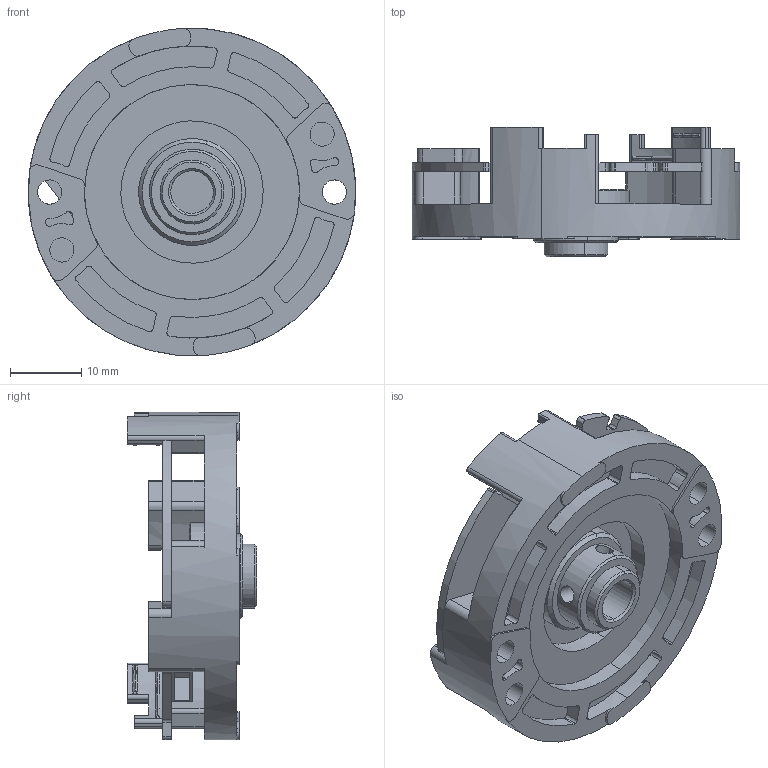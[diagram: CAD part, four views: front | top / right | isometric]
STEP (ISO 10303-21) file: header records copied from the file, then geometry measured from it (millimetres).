
FILE_DESCRIPTION (( 'STEP AP214' ), '1' );
FILE_NAME ('SRM46SP鬥遴-耳6-俋楷.STEP', '2022-07-27T03:03:32', ( '' ), ( '' ), 'SwSTEP 2.0', 'SolidWorks 2016', '' );
FILE_SCHEMA (( 'AUTOMOTIVE_DESIGN' ));
Length unit declared in the file: millimetre
Products named in the file (3): SRM46SP鬥遴-盓殤郪璃; SRM46SP鬥遴-耳6-俋楷; 耳6粣郪璃
Assembly tree (2 placements, depth 2):
  SRM46SP鬥遴-耳6-俋楷
    SRM46SP鬥遴-盓殤郪璃
    耳6粣郪璃
Bounding box: 46 x 18.2 x 45.97 mm (x, y, z)
Volume: 9156.4 mm3; surface area: 10531.2 mm2
Topology: 6 solids, 6 shells, 476 faces, 1290 edges, 841 vertices
Faces by surface type: cylinder 253, plane 195, torus 14, cone 14
Entity records: 20755 total; most frequent: CARTESIAN_POINT 2890, DIRECTION 2771, ORIENTED_EDGE 2580, EDGE_CURVE 1290, AXIS2_PLACEMENT_3D 1034, VERTEX_POINT 841, VECTOR 703, LINE 703
